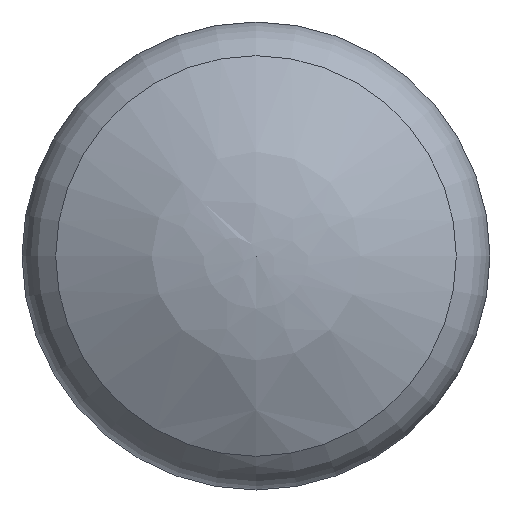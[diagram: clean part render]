
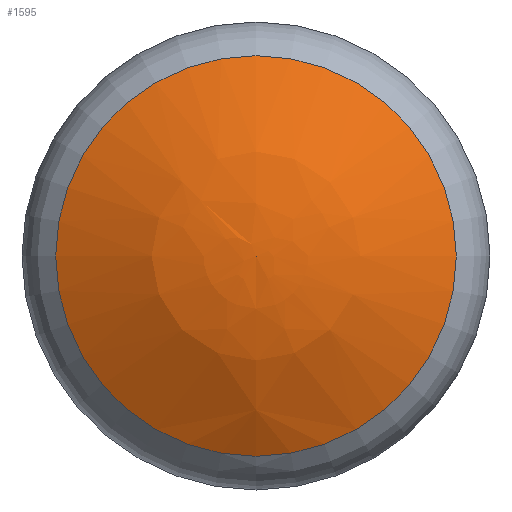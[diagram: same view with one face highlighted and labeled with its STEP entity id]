
A CAD part, front view. The second image highlights one B-rep face of the part: STEP entity #1595.
In plain terms, the highlighted free-form (B-spline) face has degree [2, 2] with [3, 9] control points.
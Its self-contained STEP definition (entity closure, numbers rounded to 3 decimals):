
#67=(
BOUNDED_SURFACE()
B_SPLINE_SURFACE(2,2,((#2476,#2477,#2478,#2479,#2480,#2481,#2482,#2483,
#2484),(#2485,#2486,#2487,#2488,#2489,#2490,#2491,#2492,#2493),(#2494,#2495,
#2496,#2497,#2498,#2499,#2500,#2501,#2502)),.UNSPECIFIED.,.F.,.T.,.F.)
B_SPLINE_SURFACE_WITH_KNOTS((3,3),(3,2,2,2,3),(-1.571,-0.996),
(-3.142,-1.571,0.,1.571,3.142),
 .UNSPECIFIED.)
GEOMETRIC_REPRESENTATION_ITEM()
RATIONAL_B_SPLINE_SURFACE(((1.,0.707,1.,0.707,1.,
0.707,1.,0.707,1.),(0.959,0.678,
0.959,0.678,0.959,0.678,
0.959,0.678,0.959),(1.,0.707,
1.,0.707,1.,0.707,1.,0.707,1.)))
REPRESENTATION_ITEM('')
SURFACE()
);
#178=FACE_OUTER_BOUND('',#259,.T.);
#259=EDGE_LOOP('',(#1111,#1112,#1113));
#358=CIRCLE('',#1725,21.743);
#359=CIRCLE('',#1726,40.);
#631=VERTEX_POINT('',#2503);
#632=VERTEX_POINT('',#2505);
#815=EDGE_CURVE('',#631,#631,#358,.T.);
#816=EDGE_CURVE('',#631,#632,#359,.T.);
#1111=ORIENTED_EDGE('',*,*,#815,.F.);
#1112=ORIENTED_EDGE('',*,*,#816,.T.);
#1113=ORIENTED_EDGE('',*,*,#816,.F.);
#1595=ADVANCED_FACE('',(#178),#67,.F.);
#1725=AXIS2_PLACEMENT_3D('',#2504,#1964,#1965);
#1726=AXIS2_PLACEMENT_3D('',#2506,#1966,#1967);
#1964=DIRECTION('center_axis',(0.,1.,0.));
#1965=DIRECTION('ref_axis',(1.,0.,0.));
#1966=DIRECTION('center_axis',(-1.,0.,0.));
#1967=DIRECTION('ref_axis',(0.,0.,-1.));
#2476=CARTESIAN_POINT('Ctrl Pts',(0.,0.,
0.));
#2477=CARTESIAN_POINT('Ctrl Pts',(0.,0.,
0.));
#2478=CARTESIAN_POINT('Ctrl Pts',(0.,0.,
0.));
#2479=CARTESIAN_POINT('Ctrl Pts',(0.,0.,
0.));
#2480=CARTESIAN_POINT('Ctrl Pts',(0.,0.,
0.));
#2481=CARTESIAN_POINT('Ctrl Pts',(0.,0.,
0.));
#2482=CARTESIAN_POINT('Ctrl Pts',(0.,0.,
0.));
#2483=CARTESIAN_POINT('Ctrl Pts',(0.,0.,
0.));
#2484=CARTESIAN_POINT('Ctrl Pts',(0.,0.,
0.));
#2485=CARTESIAN_POINT('Ctrl Pts',(0.,0.002,
-11.822));
#2486=CARTESIAN_POINT('Ctrl Pts',(-11.822,0.002,
-11.822));
#2487=CARTESIAN_POINT('Ctrl Pts',(-11.822,0.002,
0.));
#2488=CARTESIAN_POINT('Ctrl Pts',(-11.822,0.002,
11.822));
#2489=CARTESIAN_POINT('Ctrl Pts',(0.,0.002,
11.822));
#2490=CARTESIAN_POINT('Ctrl Pts',(11.822,0.002,
11.822));
#2491=CARTESIAN_POINT('Ctrl Pts',(11.822,0.002,
0.));
#2492=CARTESIAN_POINT('Ctrl Pts',(11.822,0.002,
-11.822));
#2493=CARTESIAN_POINT('Ctrl Pts',(0.,0.002,
-11.822));
#2494=CARTESIAN_POINT('Ctrl Pts',(0.,6.43,
-21.743));
#2495=CARTESIAN_POINT('Ctrl Pts',(-21.743,6.43,-21.743));
#2496=CARTESIAN_POINT('Ctrl Pts',(-21.743,6.43,0.));
#2497=CARTESIAN_POINT('Ctrl Pts',(-21.743,6.43,21.743));
#2498=CARTESIAN_POINT('Ctrl Pts',(0.,6.43,
21.743));
#2499=CARTESIAN_POINT('Ctrl Pts',(21.743,6.43,21.743));
#2500=CARTESIAN_POINT('Ctrl Pts',(21.743,6.43,0.));
#2501=CARTESIAN_POINT('Ctrl Pts',(21.743,6.43,-21.743));
#2502=CARTESIAN_POINT('Ctrl Pts',(0.,6.43,
-21.743));
#2503=CARTESIAN_POINT('',(0.,6.43,-21.743));
#2504=CARTESIAN_POINT('Origin',(0.,6.43,
0.));
#2505=CARTESIAN_POINT('',(0.,0.,0.));
#2506=CARTESIAN_POINT('Origin',(0.,40.,0.006));
